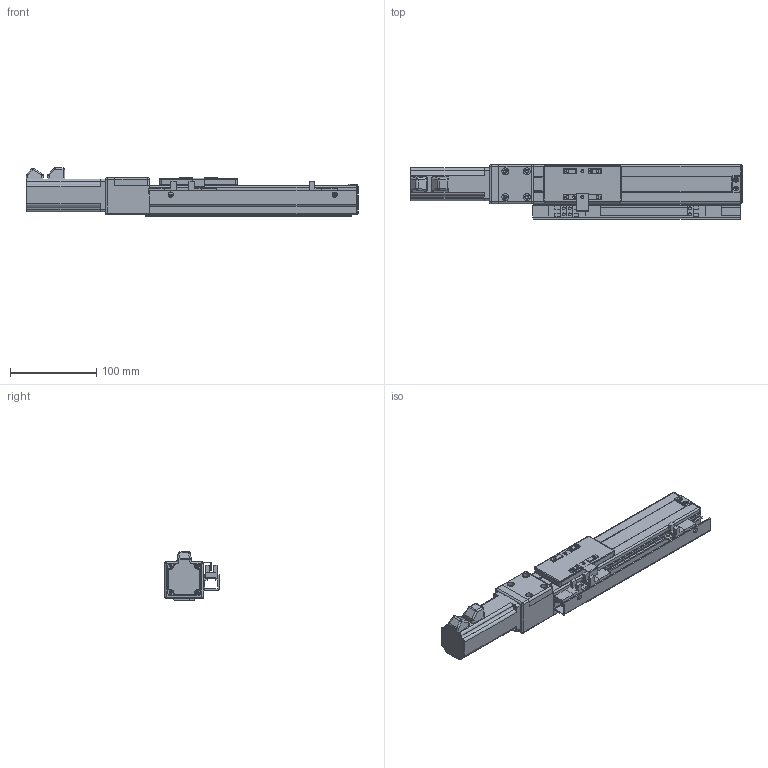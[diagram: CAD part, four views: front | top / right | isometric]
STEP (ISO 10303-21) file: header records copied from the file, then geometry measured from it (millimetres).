
FILE_DESCRIPTION (( 'STEP AP203' ), '1' );
FILE_NAME ('VT4-L12-C-S120-BC-P10-C4.STEP', '2015-10-26T03:44:35', ( '' ), ( '' ), 'SwSTEP 2.0', 'SolidWorks 2013', '' );
FILE_SCHEMA (( 'CONFIG_CONTROL_DESIGN' ));
Length unit declared in the file: millimetre
Products named in the file (15): VT4-L12-C-S120-BC-P10-C4; T6-癹弇羲壽羞_俴最120; T4-揤輸; 侂狟100W MSMD012G1U; T4-BCヶ傷裔揤啣; T4-綴傷裔; T4-賑雄殤; T4-BC 詩湍; T4-耜啣羲耀芞2_俴最120; MGW12C-絳寢_俴最120; T4-裔啣; EE-SX674-WR; T4-BCヶ傷裔-100; T4-覜茼え; SFKR0802佪裝TBI_俴最120
Assembly tree (17 placements, depth 2):
  VT4-L12-C-S120-BC-P10-C4
    T4-綴傷裔
    T4-耜啣羲耀芞2_俴最120  x2
    T4-賑雄殤
    T4-裔啣
    T4-揤輸
    T4-覜茼え
    T6-癹弇羲壽羞_俴最120
    EE-SX674-WR  x3
    SFKR0802佪裝TBI_俴最120
    MGW12C-絳寢_俴最120
    T4-BCヶ傷裔-100
    T4-BCヶ傷裔揤啣
    T4-BC 詩湍
    侂狟100W MSMD012G1U
Bounding box: 385 x 63 x 56 mm (x, y, z)
Volume: 388561.8 mm3; surface area: 213141.6 mm2
Topology: 20 solids, 20 shells, 1146 faces, 3060 edges, 1932 vertices
Faces by surface type: plane 532, cylinder 504, cone 56, torus 30, sphere 24
Entity records: 31502 total; most frequent: CARTESIAN_POINT 5824, DIRECTION 5189, ORIENTED_EDGE 4896, EDGE_CURVE 2448, AXIS2_PLACEMENT_3D 1865, VERTEX_POINT 1566, VECTOR 1459, LINE 1459
